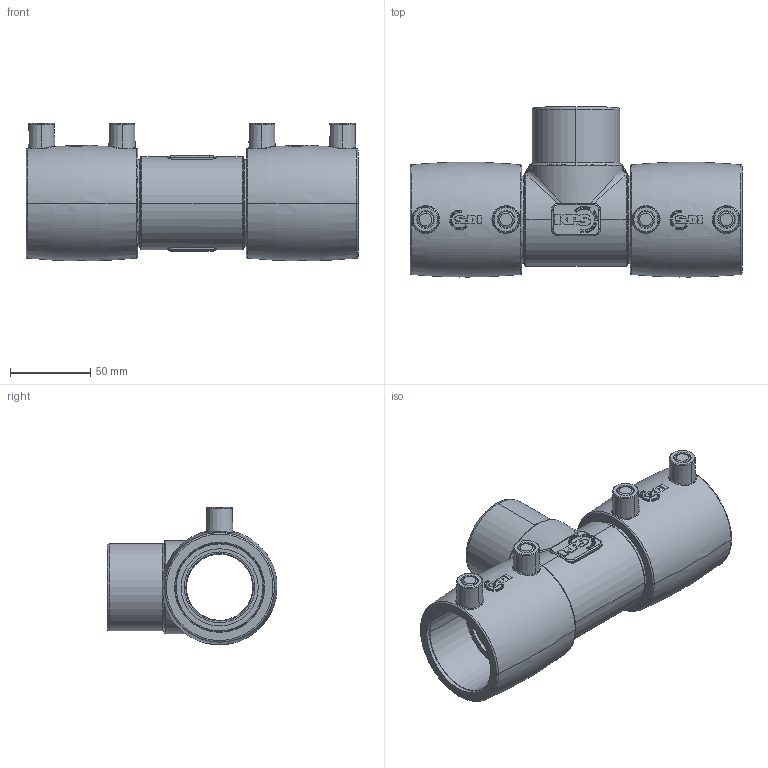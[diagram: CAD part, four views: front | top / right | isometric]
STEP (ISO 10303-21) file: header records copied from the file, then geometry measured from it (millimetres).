
FILE_DESCRIPTION (( 'STEP AP214' ), '1' );
FILE_NAME ('KP_8_54E.STEP', '2022-04-28T07:30:49', ( '' ), ( '' ), 'SwSTEP 2.0', 'SolidWorks 2022', '' );
FILE_SCHEMA (( 'AUTOMOTIVE_DESIGN' ));
Length unit declared in the file: millimetre
Products named in the file (3): KP_8-54E; KP_2-54; KP_8_54E
Assembly tree (3 placements, depth 2):
  KP_8_54E
    KP_2-54  x2
    KP_8-54E
Bounding box: 206.4 x 105.67 x 85.53 mm (x, y, z)
Volume: 412603.7 mm3; surface area: 178979.2 mm2
Topology: 3 solids, 5 shells, 1829 faces, 4685 edges, 3063 vertices
Faces by surface type: plane 954, bspline 418, cylinder 224, torus 125, cone 108
Entity records: 58195 total; most frequent: CARTESIAN_POINT 22813, ORIENTED_EDGE 6252, DIRECTION 4417, EDGE_CURVE 3126, VERTEX_POINT 2035, VECTOR 1699, LINE 1699, EDGE_LOOP 1367
